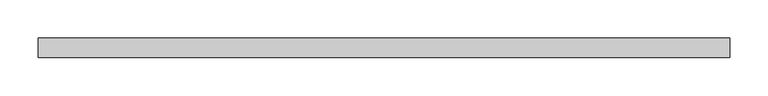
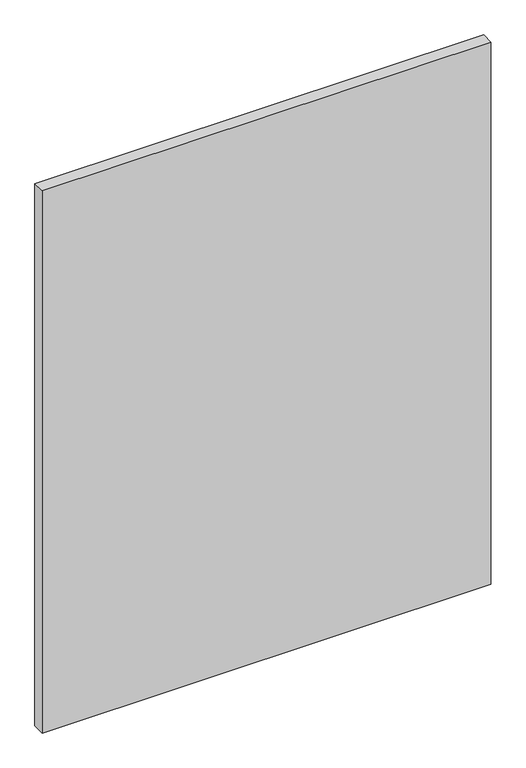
"""IFC4 building model written with IfcOpenShell, lengths in millimetres: plate geometry, Системная панель : С остеклением."""

from ifc_helpers import new_model, si_unit, origin, origin_with_axes, place, context, project, spatial, polyline, outline, extrude, source, transform, mapped, element, save


def plate_57f18dda(model_context):
    return source(origin(), model_context, "Body", "SweptSolid", [
        extrude(outline(polyline([(450.0000002, 24.5), (-450.0000002, 24.5), (-450.0000002, 49.5), (450.0000002, 49.5), (450.0000002, 24.5)])), origin_with_axes(), (0.0, 0.0, 1.0), 1150.0),
    ])


if __name__ == "__main__":
    model = new_model("IFC4")
    model_context = context("Model", 3, world=origin())
    ifc_project = project(units=[si_unit("LENGTHUNIT", "METRE", prefix="MILLI")], contexts=[model_context])
    site = spatial("IfcSite", under=ifc_project)
    building = spatial("IfcBuilding", under=site)
    placement = place(None, origin())
    plate_shape = plate_57f18dda(model_context)
    element("IfcPlate", 1, ObjectType="Системная панель : С остеклением", at=placement, inside=building, context=model_context, shape_type="MappedRepresentation", body=[
        mapped(plate_shape, transform((0.0, 0.0, 0.0), x_axis=(1.0, 0.0, 0.0), y_axis=(0.0, 1.0, 0.0), z_axis=(0.0, 0.0, 1.0))),
    ])
    save(model, "model.ifc")
